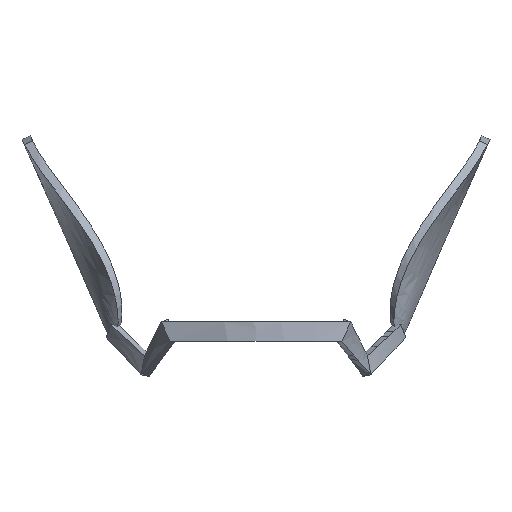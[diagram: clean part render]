
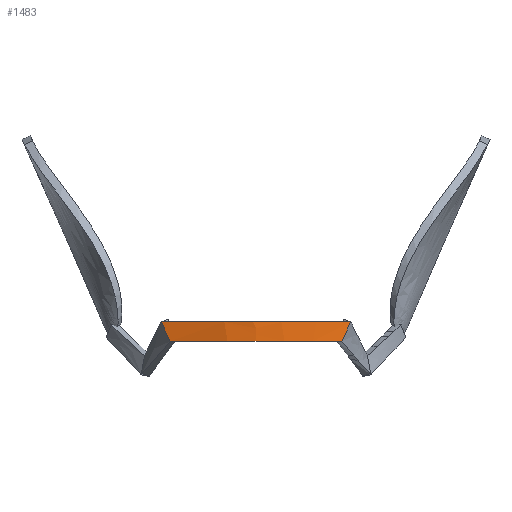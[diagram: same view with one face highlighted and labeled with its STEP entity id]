
A CAD part, front view. The second image highlights one B-rep face of the part: STEP entity #1483.
In plain terms, the highlighted free-form (B-spline) face has degree [3, 3] with [8, 4] control points.
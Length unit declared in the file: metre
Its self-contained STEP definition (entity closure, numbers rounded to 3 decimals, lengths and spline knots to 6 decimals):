
#24=LINE('',#7553,#38);
#33=LINE('',#12972,#47);
#38=VECTOR('',#1552,1.);
#47=VECTOR('',#1581,1.);
#457=ORIENTED_EDGE('',*,*,#570,.T.);
#458=ORIENTED_EDGE('',*,*,#725,.F.);
#459=ORIENTED_EDGE('',*,*,#714,.T.);
#460=ORIENTED_EDGE('',*,*,#726,.T.);
#570=EDGE_CURVE('',#767,#771,#24,.T.);
#714=EDGE_CURVE('',#826,#865,#33,.T.);
#725=EDGE_CURVE('',#826,#771,#1077,.T.);
#726=EDGE_CURVE('',#865,#767,#1078,.T.);
#767=VERTEX_POINT('',#4050);
#771=VERTEX_POINT('',#4079);
#826=VERTEX_POINT('',#12395);
#865=VERTEX_POINT('',#12971);
#1077=B_SPLINE_CURVE_WITH_KNOTS('',3,(#13107,#13108,#13109,#13110,#13111),
 .UNSPECIFIED.,.F.,.F.,(4,1,4),(0.,0.5,1.),.QUASI_UNIFORM_KNOTS.);
#1078=B_SPLINE_CURVE_WITH_KNOTS('',3,(#13112,#13113,#13114,#13115,#13116),
 .UNSPECIFIED.,.F.,.F.,(4,1,4),(0.,0.5,1.),.QUASI_UNIFORM_KNOTS.);
#1187=EDGE_LOOP('',(#457,#458,#459,#460));
#1289=FACE_BOUND('',#1187,.T.);
#1381=B_SPLINE_SURFACE_WITH_KNOTS('',3,3,((#13075,#13076,#13077,#13078),
(#13079,#13080,#13081,#13082),(#13083,#13084,#13085,#13086),(#13087,#13088,
#13089,#13090),(#13091,#13092,#13093,#13094),(#13095,#13096,#13097,#13098),
(#13099,#13100,#13101,#13102),(#13103,#13104,#13105,#13106)),
 .UNSPECIFIED.,.F.,.F.,.F.,(4,1,3,4),(4,4),(0.,0.5,1.,1.01),(0.,1.),
 .UNSPECIFIED.);
#1483=ADVANCED_FACE('',(#1289),#1381,.F.);
#1552=DIRECTION('',(0.428,0.149,0.891));
#1581=DIRECTION('',(0.428,-0.149,-0.891));
#4050=CARTESIAN_POINT('',(0.018898,0.00379,-0.004293));
#4079=CARTESIAN_POINT('',(0.02096,0.004509,0.));
#7553=CARTESIAN_POINT('',(0.02096,0.004509,0.));
#12395=CARTESIAN_POINT('',(-0.020959,0.004509,0.));
#12971=CARTESIAN_POINT('',(-0.018898,0.00379,-0.004293));
#12972=CARTESIAN_POINT('',(-0.020959,0.004509,0.));
#13075=CARTESIAN_POINT('',(-0.020959,0.004509,0.));
#13076=CARTESIAN_POINT('',(-0.020272,0.00427,-0.001431));
#13077=CARTESIAN_POINT('',(-0.019585,0.00403,-0.002862));
#13078=CARTESIAN_POINT('',(-0.018898,0.00379,-0.004293));
#13079=CARTESIAN_POINT('',(-0.013973,0.002255,0.));
#13080=CARTESIAN_POINT('',(-0.013515,0.002135,-0.001431));
#13081=CARTESIAN_POINT('',(-0.013057,0.002015,-0.002862));
#13082=CARTESIAN_POINT('',(-0.012598,0.001895,-0.004293));
#13083=CARTESIAN_POINT('',(0.,-0.002255,0.));
#13084=CARTESIAN_POINT('',(0.,-0.002135,-0.001431));
#13085=CARTESIAN_POINT('',(0.,-0.002015,-0.002862));
#13086=CARTESIAN_POINT('',(0.,-0.001895,-0.004293));
#13087=CARTESIAN_POINT('',(0.013973,0.002255,0.));
#13088=CARTESIAN_POINT('',(0.013515,0.002135,-0.001431));
#13089=CARTESIAN_POINT('',(0.013057,0.002015,-0.002862));
#13090=CARTESIAN_POINT('',(0.012598,0.001895,-0.004293));
#13091=CARTESIAN_POINT('',(0.020959,0.004509,0.));
#13092=CARTESIAN_POINT('',(0.020272,0.00427,-0.001431));
#13093=CARTESIAN_POINT('',(0.019585,0.00403,-0.002862));
#13094=CARTESIAN_POINT('',(0.018898,0.00379,-0.004293));
#13095=CARTESIAN_POINT('',(0.021099,0.004555,0.));
#13096=CARTESIAN_POINT('',(0.020407,0.004312,-0.001431));
#13097=CARTESIAN_POINT('',(0.019715,0.00407,-0.002862));
#13098=CARTESIAN_POINT('',(0.019024,0.003828,-0.004293));
#13099=CARTESIAN_POINT('',(0.021239,0.0046,0.));
#13100=CARTESIAN_POINT('',(0.020542,0.004355,-0.001431));
#13101=CARTESIAN_POINT('',(0.019846,0.00411,-0.002862));
#13102=CARTESIAN_POINT('',(0.01915,0.003866,-0.004293));
#13103=CARTESIAN_POINT('',(0.021379,0.004645,0.));
#13104=CARTESIAN_POINT('',(0.020678,0.004398,-0.001431));
#13105=CARTESIAN_POINT('',(0.019977,0.004151,-0.002862));
#13106=CARTESIAN_POINT('',(0.019275,0.003904,-0.004293));
#13107=CARTESIAN_POINT('',(-0.020959,0.004509,0.));
#13108=CARTESIAN_POINT('',(-0.013973,0.002255,0.));
#13109=CARTESIAN_POINT('',(0.,-0.002255,0.));
#13110=CARTESIAN_POINT('',(0.013973,0.002255,0.));
#13111=CARTESIAN_POINT('',(0.020959,0.004509,0.));
#13112=CARTESIAN_POINT('',(-0.018898,0.00379,-0.004293));
#13113=CARTESIAN_POINT('',(-0.012598,0.001895,-0.004293));
#13114=CARTESIAN_POINT('',(0.,-0.001895,-0.004293));
#13115=CARTESIAN_POINT('',(0.012598,0.001895,-0.004293));
#13116=CARTESIAN_POINT('',(0.018898,0.00379,-0.004293));
